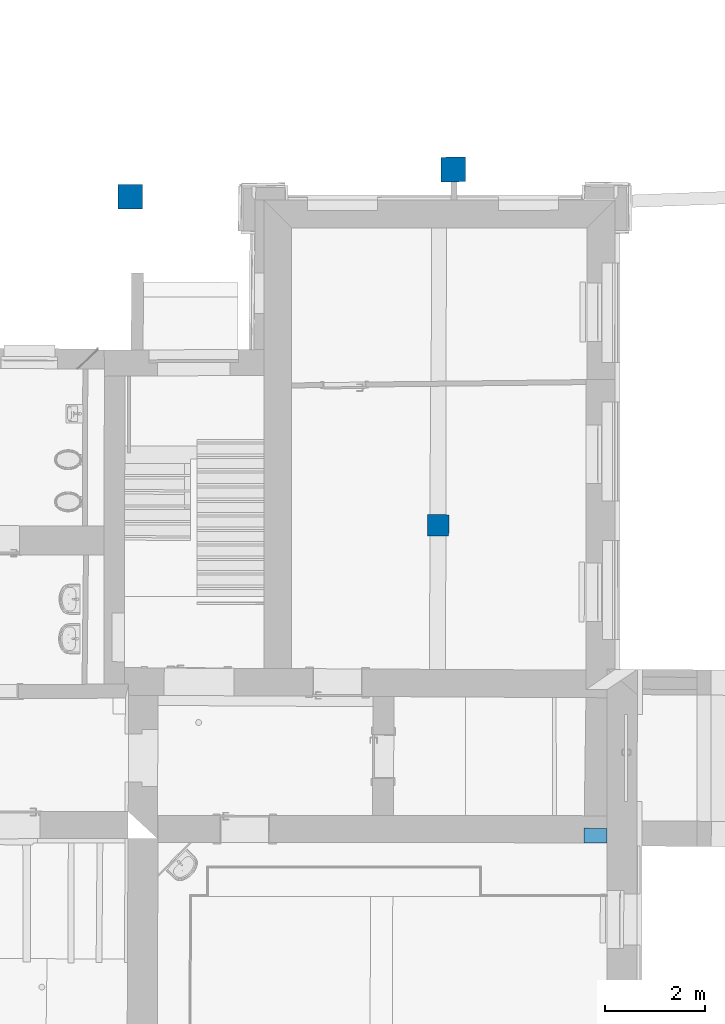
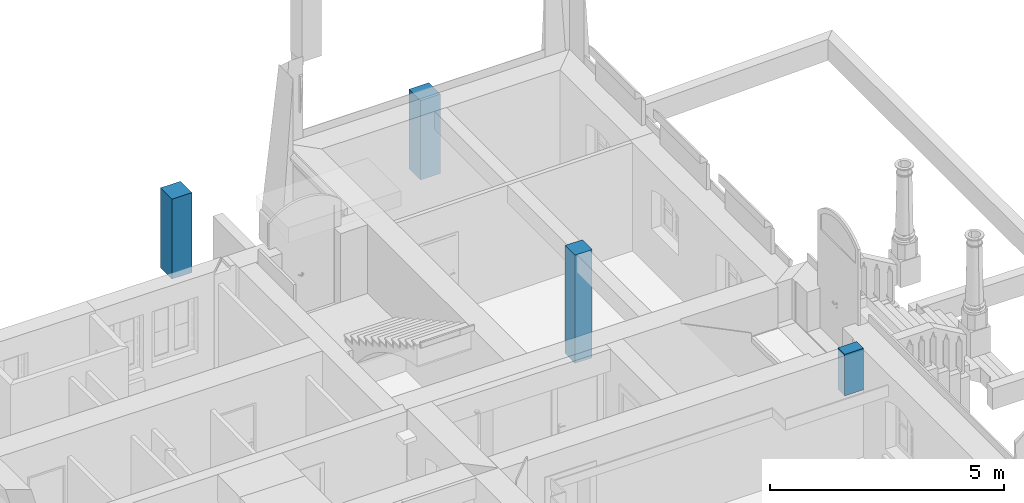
# One storey, part 3 of 196: 4 columns.
"""IFC2X3 building model written with IfcOpenShell, lengths in metres."""

from ifc_helpers import new_model, entity, si_unit, converted_unit, derived_unit, money_unit, direction, frame, origin_with_axes, origin_2d_with_axis, place, context, subcontext, project, spatial, rectangle, extrude, material, type_object, element, save


model = new_model("IFC2X3")

# Units and contexts
model_context = context("Model", 3, precision=1e-05, world=origin_with_axes(), true_north=direction((0.0, 1.0)))
body_context = subcontext(model_context, "Body", "Model", "MODEL_VIEW")
ifc_project = project(units=[si_unit("LENGTHUNIT", "METRE"), si_unit("AREAUNIT", "SQUARE_METRE"), si_unit("VOLUMEUNIT", "CUBIC_METRE"), converted_unit("PLANEANGLEUNIT", "DEGREE", entity("IfcPlaneAngleMeasure", 0.0174532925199), si_unit("PLANEANGLEUNIT", "RADIAN"), dimensions=[0, 0, 0, 0, 0, 0, 0]), money_unit("EUR"), converted_unit("TIMEUNIT", "Year", entity("IfcTimeMeasure", 31556926.0), si_unit("TIMEUNIT", "SECOND"), dimensions=[0, 0, 1, 0, 0, 0, 0]), si_unit("MASSUNIT", "GRAM", prefix="KILO"), si_unit("THERMODYNAMICTEMPERATUREUNIT", "DEGREE_CELSIUS"), si_unit("LUMINOUSINTENSITYUNIT", "LUMEN"), si_unit("ENERGYUNIT", "JOULE", prefix="MEGA"), derived_unit("THERMALCONDUCTANCEUNIT", [(si_unit("POWERUNIT", "WATT"), 1), (si_unit("LENGTHUNIT", "METRE"), -1), (si_unit("THERMODYNAMICTEMPERATUREUNIT", "KELVIN"), -1)]), derived_unit("SPECIFICHEATCAPACITYUNIT", [(si_unit("ENERGYUNIT", "JOULE"), 1), (si_unit("MASSUNIT", "GRAM", prefix="KILO"), -1), (si_unit("THERMODYNAMICTEMPERATUREUNIT", "KELVIN"), -1)]), derived_unit("MASSDENSITYUNIT", [(si_unit("MASSUNIT", "GRAM", prefix="KILO"), 1), (si_unit("VOLUMEUNIT", "CUBIC_METRE"), -1)])], contexts=[model_context])

# Site, building, storey
site_placement = place(None, origin_with_axes())
site = spatial("IfcSite", under=ifc_project, at=site_placement, Name="Gelände", CompositionType="ELEMENT")
building_placement = place(site_placement, origin_with_axes())
building = spatial("IfcBuilding", under=site, at=building_placement, Name="Gebäude", CompositionType="ELEMENT")
storey_placement = place(building_placement, frame((0.0, 0.0, -3.0), z_axis=(0.0, 0.0, 1.0), x_axis=(1.0, 0.0, 0.0)))
storey = spatial("IfcBuildingStorey", under=building, at=storey_placement, Name="KELLERGESCHOSS", CompositionType="ELEMENT", Elevation=-3.0)

# Columns
ifc_material = material(Name="05_ALLGEMEIN - TRAGENDE BAUTEILE")
column_type_1 = type_object("IfcColumnType", Name="05_ALLGEMEIN - TRAGENDE BAUTEILE 490 x 490", PredefinedType="USERDEFINED")
column_1_placement = place(storey_placement, frame((22.0073597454, 29.2312163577, 0.376765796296), z_axis=(0.0, 0.0, 1.0), x_axis=(1.0, 0.0, 0.0)))
element("IfcColumn", 1, at=column_1_placement, inside=storey, type_object=column_type_1, material=ifc_material, Name="Stütze-008", ObjectType="PILASTER", context=body_context, shape_type="SweptSolid", body=[
    extrude(rectangle(XDim=0.49, YDim=0.49, at=origin_2d_with_axis()), frame((0.0, 0.0, 0.0), z_axis=(0.0, 0.0, 1.0), x_axis=(0.0020657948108, -0.999997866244, 0.0)), (0.0, 0.0, 1.0), 2.084954),
])
column_2_placement = place(storey_placement, frame((28.4486231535, 29.7725571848, 0.376765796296), z_axis=(0.0, 0.0, 1.0), x_axis=(1.0, 0.0, 0.0)))
element("IfcColumn", 2, at=column_2_placement, inside=storey, type_object=column_type_1, material=ifc_material, Name="Stütze-008", ObjectType="PILASTER", context=body_context, shape_type="SweptSolid", body=[
    extrude(rectangle(XDim=0.49, YDim=0.49, at=origin_2d_with_axis()), frame((0.0, 0.0, 0.0), z_axis=(0.0, 0.0, 1.0), x_axis=(-0.999985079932, -0.00546259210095, 0.0)), (0.0, 0.0, 1.0), 2.07096162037),
])
column_type_2 = type_object("IfcColumnType", Name="05_ALLGEMEIN - TRAGENDE BAUTEILE 425 x 425", PredefinedType="COLUMN")
column_3_placement = place(storey_placement, frame((28.1505179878, 22.6774352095, -0.03), z_axis=(0.0, 0.0, 1.0), x_axis=(1.0, 0.0, 0.0)))
element("IfcColumn", 3, at=column_3_placement, inside=storey, type_object=column_type_2, material=ifc_material, Name="Stütze-008", ObjectType="COLUMN", context=body_context, shape_type="SweptSolid", body=[
    extrude(rectangle(XDim=0.425, YDim=0.425, at=origin_2d_with_axis()), frame((0.0, 0.0, 0.0), z_axis=(0.0, 0.0, 1.0), x_axis=(0.999890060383, -0.0148279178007, 0.0)), (0.0, 0.0, 1.0), 2.82),
])
column_type_3 = type_object("IfcColumnType", Name="05_ALLGEMEIN - TRAGENDE BAUTEILE 463 x 291", PredefinedType="USERDEFINED")
column_4_placement = place(storey_placement, frame((31.2868593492, 16.4901971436, 1.74), z_axis=(0.0, 0.0, 1.0), x_axis=(0.969675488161, 0.24439608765, 0.0)))
element("IfcColumn", 4, at=column_4_placement, inside=storey, type_object=column_type_3, material=ifc_material, Name="Stütze-009", ObjectType="PILASTER", context=body_context, shape_type="SweptSolid", body=[
    extrude(rectangle(XDim=0.46283729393, YDim=0.290889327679, at=origin_2d_with_axis()), frame((0.0, 0.0, 0.0), z_axis=(0.0, 0.0, 1.0), x_axis=(0.969394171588, -0.245509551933, 0.0)), (0.0, 0.0, 1.0), 1.08347335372),
])

save(model, "model.ifc")
